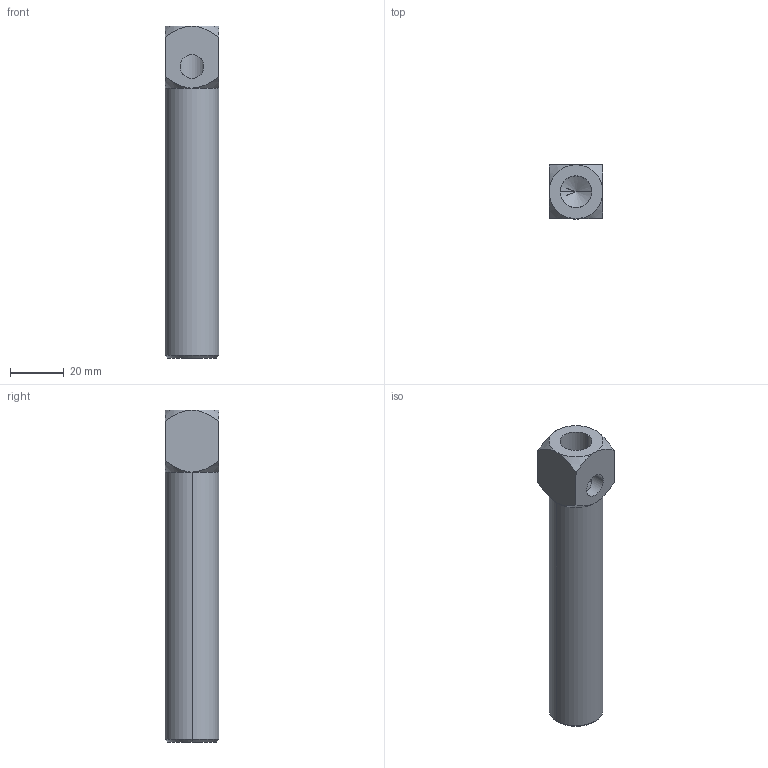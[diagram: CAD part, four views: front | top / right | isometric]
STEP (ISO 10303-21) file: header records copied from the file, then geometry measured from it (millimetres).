
FILE_DESCRIPTION (( 'STEP AP214' ), '1' );
FILE_NAME ('SVE-G1420100.STEP', '2023-01-29T07:34:14', ( 'Windows User' ), ( 'P R C' ), 'SwSTEP 2.0', 'SolidWorks 2019', '' );
FILE_SCHEMA (( 'AUTOMOTIVE_DESIGN' ));
Length unit declared in the file: millimetre
Products named in the file (1): SVE-G1420100
Bounding box: 20 x 20 x 123 mm (x, y, z)
Volume: 18528.6 mm3; surface area: 14221.7 mm2
Topology: 1 solids, 1 shells, 29 faces, 64 edges, 34 vertices
Faces by surface type: cone 16, cylinder 8, plane 5
Entity records: 1000 total; most frequent: CARTESIAN_POINT 370, DIRECTION 124, ORIENTED_EDGE 120, EDGE_CURVE 60, AXIS2_PLACEMENT_3D 52, VERTEX_POINT 34, EDGE_LOOP 32, FACE_OUTER_BOUND 29
